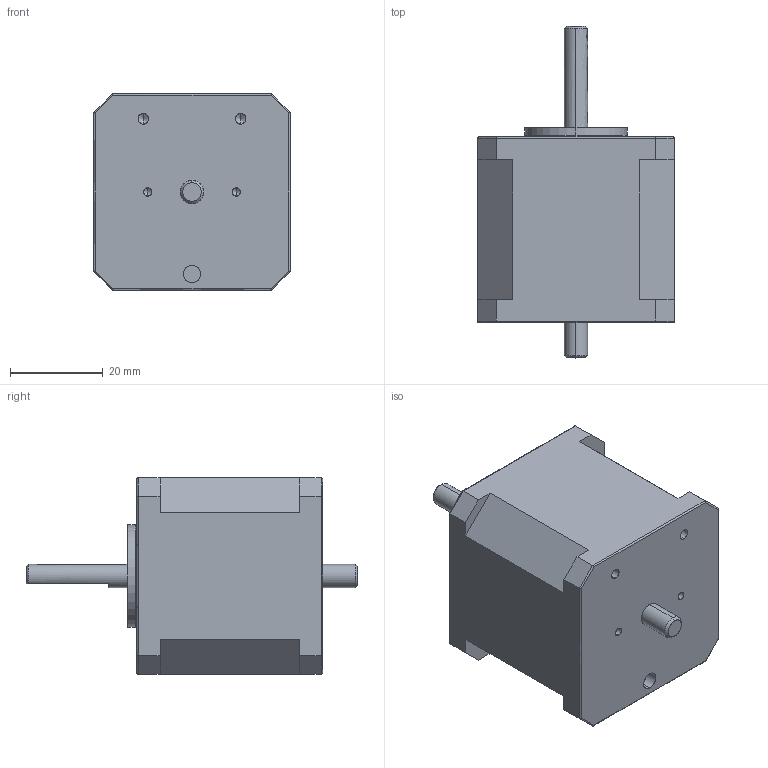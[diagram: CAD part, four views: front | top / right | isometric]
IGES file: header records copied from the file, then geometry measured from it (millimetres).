
Start section: SolidWorks IGES file using analytic representation for surfaces
Global section: file name: C:\Users\Christine\Documents\Arcus\Project #21\STM-17-2\STM-17-2.IGS; native system: SolidWorks 2008; preprocessor: SolidWorks 2008; author: Christine; date: 131011.121923; units: millimetre
Bounding box: 42.3 x 71.5 x 42.3 mm (x, y, z)
Surface area: 11002.3 mm2 (no closed solid volume)
Topology: 0 solids, 0 shells, 93 faces, 985 edges, 969 vertices
Faces by surface type: revolution 59, bspline 34
